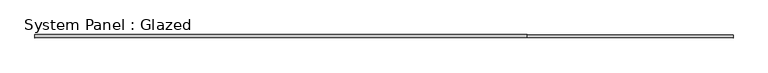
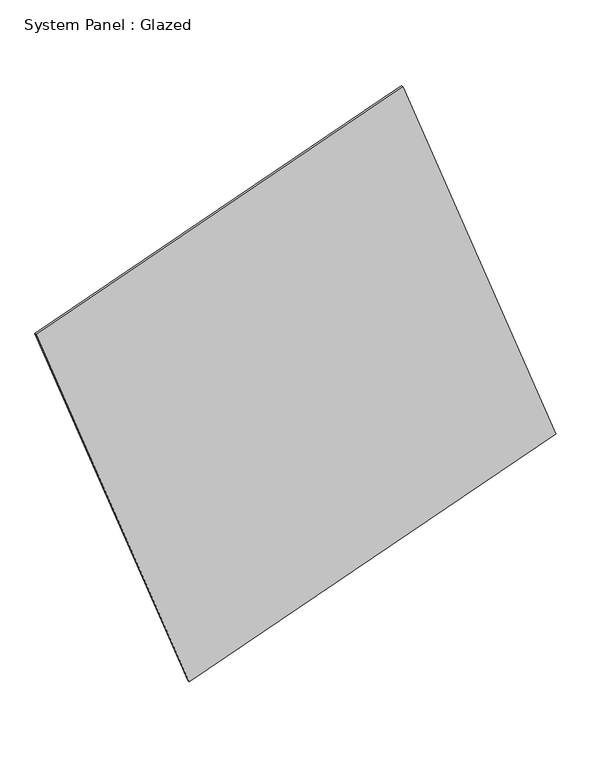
"""IFC4 building model written with IfcOpenShell, lengths in millimetres: plate geometry, System Panel : Glazed."""

from ifc_helpers import new_model, si_unit, frame, origin, place, context, project, spatial, polyline, outline, extrude, source, transform, mapped, element, save


def system_panel_glazed_70b2b260(model_context):
    return source(origin(), model_context, "Body", "SweptSolid", [
        extrude(outline(polyline([(0.0, -465.2693023), (581.4341798, 1132.208419), (2413.8347903, 465.2691396), (1832.4006698, -1132.208419), (0.0, -465.2693023)])), frame((0.0, -5.0, 0.0), z_axis=(0.0, 1.0, 0.0), x_axis=(0.0, 0.0, 1.0)), (0.0, 0.0, 1.0), 10.0),
    ])


if __name__ == "__main__":
    model = new_model("IFC4")
    model_context = context("Model", 3, world=origin())
    ifc_project = project(units=[si_unit("LENGTHUNIT", "METRE", prefix="MILLI")], contexts=[model_context])
    site = spatial("IfcSite", under=ifc_project)
    building = spatial("IfcBuilding", under=site)
    placement = place(None, origin())
    system_panel_glazed_shape = system_panel_glazed_70b2b260(model_context)
    element("IfcPlate", 1, ObjectType="System Panel : Glazed", at=placement, inside=building, context=model_context, shape_type="MappedRepresentation", body=[
        mapped(system_panel_glazed_shape, transform((0.0, 0.0, 0.0), x_axis=(1.0, 0.0, 0.0), y_axis=(0.0, 1.0, 0.0), z_axis=(0.0, 0.0, 1.0))),
    ])
    save(model, "model.ifc")
